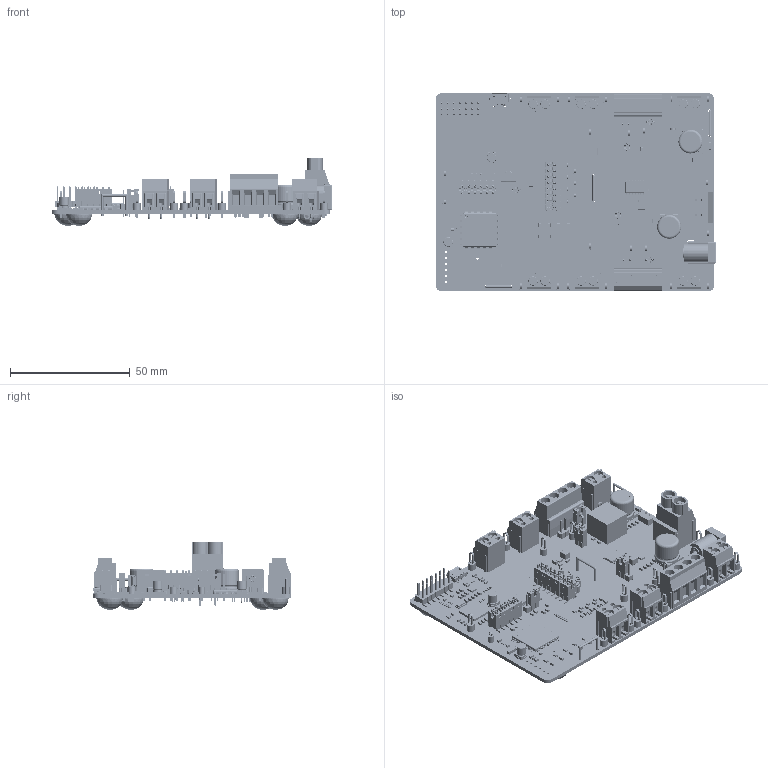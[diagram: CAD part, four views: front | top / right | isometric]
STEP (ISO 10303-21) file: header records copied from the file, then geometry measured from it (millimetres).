
FILE_DESCRIPTION(('Open CASCADE Model'),'2;1');
FILE_NAME('Open CASCADE Shape Model','2024-07-19T16:03:27',('Author'),( 'Open CASCADE'),'Open CASCADE STEP processor 7.5','Open CASCADE 7.5' ,'Unknown');
FILE_SCHEMA(('AUTOMOTIVE_DESIGN { 1 0 10303 214 1 1 1 1 }'));
Length unit declared in the file: millimetre
Products named in the file (515): PCB; Board; Open CASCADE STEP translator 7.5 2.1.1; SH-J24; 60900213421; 60900213421_1; 60900213421_2; SH-J2; SH-J1; J21; Conn_1888700_HDR4; J20; 61300211121; 61300211121_2; 61300211121_1; J5; J4; J3; J2; 694106301002; 694106301002_7; 694106301002_2; 694106301002_1; 694106301002_6; 694106301002_3; 694106301002_5; TP20; Keystone_5010; Keystone_multipurpose_wire; Keystone5005_red; U7; 6840862944; Extruded; 6840863104; C9; Cap_885012205018_0402; terminals; body; logo; TP35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
Assembly tree (923 placements, depth 5):
  PCB
    Board
      Open CASCADE STEP translator 7.5 2.1.1
    SH-J24
      60900213421
        60900213421_1
        60900213421_2
    SH-J2
      60900213421
        60900213421_1
        60900213421_2
    SH-J1
      60900213421
        60900213421_1
        60900213421_2
    J21
      Conn_1888700_HDR4
      Conn_1888700_HDR4
      Conn_1888700_HDR4
      Conn_1888700_HDR4
      Conn_1888700_HDR4
      Conn_1888700_HDR4
    J20
      61300211121
        61300211121_2  x2
        61300211121_1
    J5
      Conn_1888700_HDR4
      Conn_1888700_HDR4
      Conn_1888700_HDR4
      Conn_1888700_HDR4
      Conn_1888700_HDR4
      Conn_1888700_HDR4
    J4
      61300211121
        61300211121_2  x2
        61300211121_1
    J3
      61300211121
        61300211121_2  x2
        61300211121_1
    J2
      694106301002
        694106301002_7
        694106301002_2
        694106301002_1
        694106301002_6
        694106301002_3
        694106301002_5
    TP20
      Keystone_5010
        Keystone_multipurpose_wire
        Keystone5005_red
    U7
      6840862944
        Extruded
      6840863104
        Extruded
    C9
      Cap_885012205018_0402
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Bounding box: 116.99 x 82.85 x 28.17 mm (x, y, z)
Volume: 34970.5 mm3; surface area: 58104 mm2
Topology: 1420 solids, 1420 shells, 27577 faces, 70555 edges, 45788 vertices
Faces by surface type: plane 20158, cylinder 4158, bspline 2536, sphere 432, torus 251, cone 38, revolution 4
Full cylindrical faces by diameter (mm): 0.005 x4, 0.191 x1, 0.2 x1, 0.5 x2, 0.58 x2, 0.75 x2, 0.9 x12, 0.95 x12, 0.98 x2, 1.016 x15, 1.05 x9, 1.127 x6, 1.138 x2, 1.15 x16, 1.3 x26, 1.357 x1, 1.5 x3, 1.6 x24, 1.8 x1, 2 x5, 2.2 x12, 2.42 x2, 2.459 x12, 2.5 x10, 2.8 x2, 3 x37, 3.1 x12, 3.15 x1, 3.2 x24, 3.281 x8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
Entity records: 413338 total; most frequent: CARTESIAN_POINT 77992, ORIENTED_EDGE 59194, DIRECTION 54365, EDGE_CURVE 29597, LINE 23200, VECTOR 23200, VERTEX_POINT 19323, AXIS2_PLACEMENT_3D 15582
